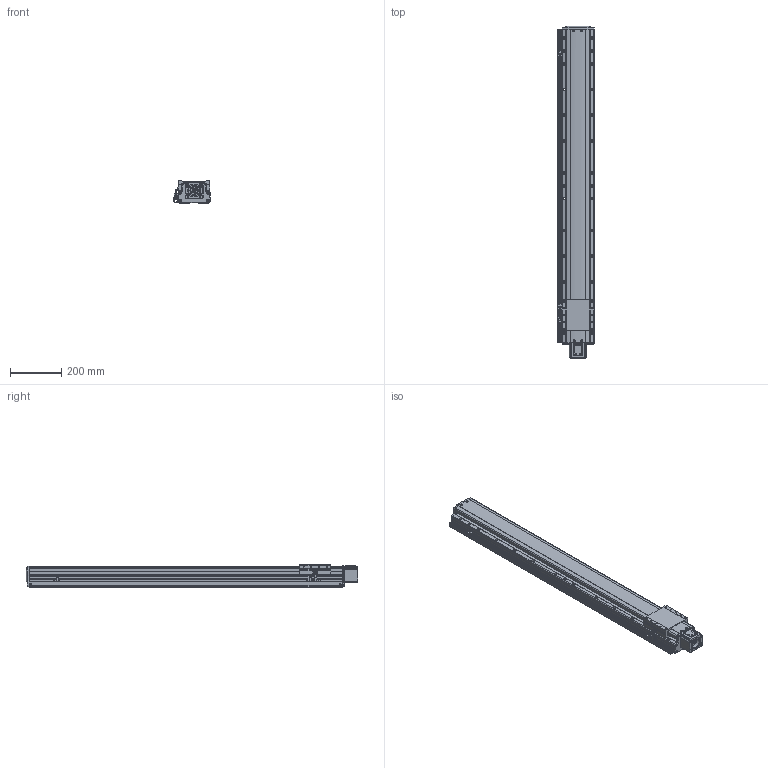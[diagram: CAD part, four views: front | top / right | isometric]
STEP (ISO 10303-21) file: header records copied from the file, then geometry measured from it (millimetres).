
FILE_DESCRIPTION(('STEP AP214'),'1');
FILE_NAME('Z:/Web/3D/PSA125/STP/PSA125-1000 (3D)/PSA125ㅁㅁ-1000S+3SL.stp','2014-06-23T05:10:40',(' '),(' '),'Spatial InterOp 3D',' ',' ');
FILE_SCHEMA(('automotive_design'));
Length unit declared in the file: millimetre
Products named in the file (53): 스크루 : Round - M4.0 x 10.0; RRCV-PA120; SLIDE; BASE; FRCV-PA120-1(기준 뿔 제거); RR1500; 스크루 : Round - M4.0 x 6.0; 너트 : Square - M10.0 x 220.7419; SSFX-SAN65; CPLCV-SAN65; 스크루 : Round - M3.0 x 6.0; MTHZ-PA120-S60A-3; 스크루 : Socket - M4.0 x 20.0; FRCV; NONE; EE-SX674; SBK-SX674-352; M3.0 x 6.0; SRL-16x17-380L; SGD-PA95; 스크루 : Round - M3.0 x 8.0
Bounding box: 141 x 1294.6 x 86 mm (x, y, z)
Volume: 10617120.6 mm3; surface area: 1005202.1 mm2
Topology: 53 solids, 87 shells, 3755 faces, 9654 edges, 6104 vertices
Faces by surface type: plane 1830, cylinder 1167, cone 473, torus 174, sphere 70, bspline 41
Entity records: 148054 total; most frequent: CARTESIAN_POINT 24037, DIRECTION 20220, ORIENTED_EDGE 18948, EDGE_CURVE 9474, AXIS2_PLACEMENT_3D 7251, VERTEX_POINT 6104, LINE 5718, VECTOR 5718
